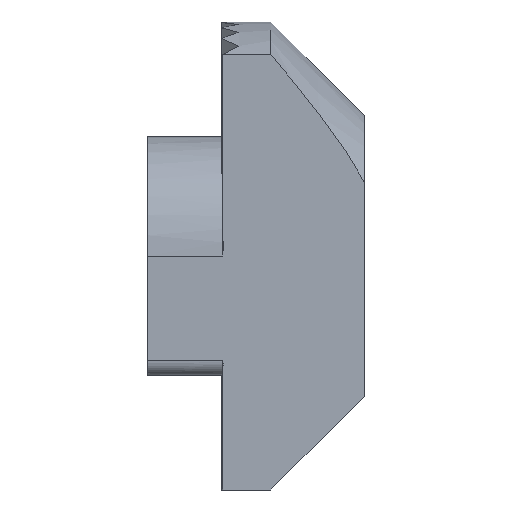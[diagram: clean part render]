
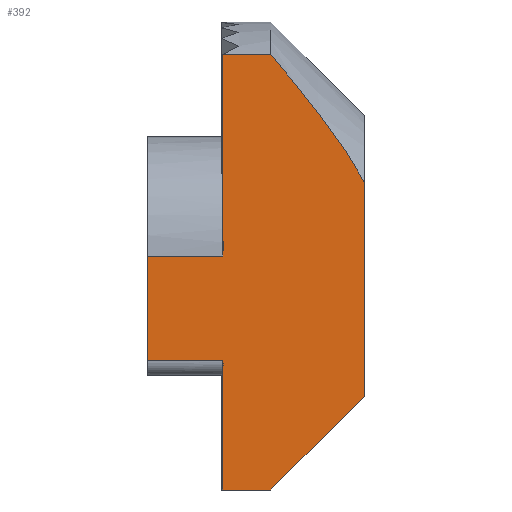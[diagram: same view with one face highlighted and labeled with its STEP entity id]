
A CAD part, left-side view. The second image highlights one B-rep face of the part: STEP entity #392.
In plain terms, the highlighted planar face has unit normal (-1, 0, 0).
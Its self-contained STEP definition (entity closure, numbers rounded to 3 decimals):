
#57 = CARTESIAN_POINT ( 'NONE',  ( -4.85, 3.8, 8.169 ) ) ;
#85 = VECTOR ( 'NONE', #3738, 1000. ) ;
#228 = CARTESIAN_POINT ( 'NONE',  ( -4.85, 5.75, -4.25 ) ) ;
#259 = LINE ( 'NONE', #4274, #1652 ) ;
#313 = VERTEX_POINT ( 'NONE', #1424 ) ;
#317 = CARTESIAN_POINT ( 'NONE',  ( -4.85, 3.1, 7.355 ) ) ;
#392 = ADVANCED_FACE ( 'NONE', ( #3383 ), #604, .F. ) ;
#401 = LINE ( 'NONE', #2017, #2925 ) ;
#458 = CARTESIAN_POINT ( 'NONE',  ( -4.85, 3.8, -9.5 ) ) ;
#471 = ORIENTED_EDGE ( 'NONE', *, *, #4269, .F. ) ;
#548 = VERTEX_POINT ( 'NONE', #458 ) ;
#596 = CARTESIAN_POINT ( 'NONE',  ( -4.85, 5.75, 8.169 ) ) ;
#604 = PLANE ( 'NONE',  #1906 ) ;
#645 = LINE ( 'NONE', #2231, #1453 ) ;
#713 = CARTESIAN_POINT ( 'NONE',  ( -4.85, 0., 2.995 ) ) ;
#723 = CARTESIAN_POINT ( 'NONE',  ( -4.85, 5.75, -9.5 ) ) ;
#880 = EDGE_LOOP ( 'NONE', ( #4785, #4732, #2509, #4182, #471, #2130, #2821, #4760, #2371, #3579 ) ) ;
#944 = VERTEX_POINT ( 'NONE', #1871 ) ;
#1192 = EDGE_CURVE ( 'NONE', #944, #3733, #2895, .T. ) ;
#1210 = DIRECTION ( 'NONE',  ( 0., -0.707, 0.707 ) ) ;
#1282 = VECTOR ( 'NONE', #3377, 1000. ) ;
#1283 = VERTEX_POINT ( 'NONE', #3127 ) ;
#1339 = LINE ( 'NONE', #2928, #85 ) ;
#1424 = CARTESIAN_POINT ( 'NONE',  ( -4.85, 5.75, -9.5 ) ) ;
#1453 = VECTOR ( 'NONE', #3838, 1000. ) ;
#1488 = LINE ( 'NONE', #4669, #4427 ) ;
#1652 = VECTOR ( 'NONE', #4646, 1000. ) ;
#1861 = LINE ( 'NONE', #723, #1936 ) ;
#1871 = CARTESIAN_POINT ( 'NONE',  ( -4.85, 0., 2.995 ) ) ;
#1878 = CARTESIAN_POINT ( 'NONE',  ( -4.85, 2.416, 6.53 ) ) ;
#1906 = AXIS2_PLACEMENT_3D ( 'NONE', #2987, #4596, #2192 ) ;
#1936 = VECTOR ( 'NONE', #4242, 1000. ) ;
#1993 = DIRECTION ( 'NONE',  ( 0., 0., -1. ) ) ;
#2017 = CARTESIAN_POINT ( 'NONE',  ( -4.85, 8.8, 0. ) ) ;
#2130 = ORIENTED_EDGE ( 'NONE', *, *, #2876, .T. ) ;
#2192 = DIRECTION ( 'NONE',  ( 0., 0., -1. ) ) ;
#2197 = DIRECTION ( 'NONE',  ( 0., -1., 0. ) ) ;
#2206 = EDGE_CURVE ( 'NONE', #1283, #4734, #259, .T. ) ;
#2231 = CARTESIAN_POINT ( 'NONE',  ( -4.85, 5.75, -9.5 ) ) ;
#2235 = EDGE_CURVE ( 'NONE', #313, #548, #1488, .T. ) ;
#2272 = CARTESIAN_POINT ( 'NONE',  ( -4.85, 0.534, 3.93 ) ) ;
#2298 = CARTESIAN_POINT ( 'NONE',  ( -4.85, 3.8, 8.169 ) ) ;
#2371 = ORIENTED_EDGE ( 'NONE', *, *, #3238, .F. ) ;
#2467 = VERTEX_POINT ( 'NONE', #4884 ) ;
#2509 = ORIENTED_EDGE ( 'NONE', *, *, #5056, .T. ) ;
#2608 = LINE ( 'NONE', #4310, #4777 ) ;
#2787 = EDGE_CURVE ( 'NONE', #3304, #313, #1861, .T. ) ;
#2821 = ORIENTED_EDGE ( 'NONE', *, *, #2206, .T. ) ;
#2876 = EDGE_CURVE ( 'NONE', #3199, #1283, #645, .T. ) ;
#2895 = B_SPLINE_CURVE_WITH_KNOTS ( 'NONE', 3,
 ( #713, #3906, #2272, #3879, #4680, #1878, #317, #2298 ),
 .UNSPECIFIED., .F., .F.,
 ( 4, 2, 2, 4 ),
 ( 0., 0.002, 0.003, 0.006 ),
 .UNSPECIFIED. ) ;
#2925 = VECTOR ( 'NONE', #1993, 1000. ) ;
#2928 = CARTESIAN_POINT ( 'NONE',  ( -4.85, 0., -9.5 ) ) ;
#2949 = LINE ( 'NONE', #3816, #1282 ) ;
#2987 = CARTESIAN_POINT ( 'NONE',  ( -4.85, 5.8, -9.5 ) ) ;
#3127 = CARTESIAN_POINT ( 'NONE',  ( -4.85, 5.75, 0. ) ) ;
#3144 = EDGE_CURVE ( 'NONE', #548, #3958, #3194, .T. ) ;
#3194 = LINE ( 'NONE', #4812, #4385 ) ;
#3199 = VERTEX_POINT ( 'NONE', #596 ) ;
#3238 = EDGE_CURVE ( 'NONE', #3304, #2467, #2949, .T. ) ;
#3304 = VERTEX_POINT ( 'NONE', #228 ) ;
#3377 = DIRECTION ( 'NONE',  ( 0., 1., 0. ) ) ;
#3383 = FACE_OUTER_BOUND ( 'NONE', #880, .T. ) ;
#3579 = ORIENTED_EDGE ( 'NONE', *, *, #2787, .T. ) ;
#3733 = VERTEX_POINT ( 'NONE', #57 ) ;
#3738 = DIRECTION ( 'NONE',  ( 0., 0., 1. ) ) ;
#3743 = EDGE_CURVE ( 'NONE', #4734, #2467, #401, .T. ) ;
#3816 = CARTESIAN_POINT ( 'NONE',  ( -4.85, 4.8, -4.25 ) ) ;
#3838 = DIRECTION ( 'NONE',  ( 0., 0., -1. ) ) ;
#3879 = CARTESIAN_POINT ( 'NONE',  ( -4.85, 1.13, 4.82 ) ) ;
#3906 = CARTESIAN_POINT ( 'NONE',  ( -4.85, 0.252, 3.474 ) ) ;
#3958 = VERTEX_POINT ( 'NONE', #4517 ) ;
#4182 = ORIENTED_EDGE ( 'NONE', *, *, #1192, .T. ) ;
#4242 = DIRECTION ( 'NONE',  ( 0., 0., -1. ) ) ;
#4269 = EDGE_CURVE ( 'NONE', #3199, #3733, #2608, .T. ) ;
#4274 = CARTESIAN_POINT ( 'NONE',  ( -4.85, 4.8, 0. ) ) ;
#4310 = CARTESIAN_POINT ( 'NONE',  ( -4.85, 5.8, 8.169 ) ) ;
#4385 = VECTOR ( 'NONE', #1210, 1000. ) ;
#4427 = VECTOR ( 'NONE', #4729, 1000. ) ;
#4517 = CARTESIAN_POINT ( 'NONE',  ( -4.85, 0., -5.7 ) ) ;
#4596 = DIRECTION ( 'NONE',  ( 1., 0., 0. ) ) ;
#4646 = DIRECTION ( 'NONE',  ( 0., 1., 0. ) ) ;
#4669 = CARTESIAN_POINT ( 'NONE',  ( -4.85, 5.8, -9.5 ) ) ;
#4680 = CARTESIAN_POINT ( 'NONE',  ( -4.85, 1.444, 5.253 ) ) ;
#4729 = DIRECTION ( 'NONE',  ( 0., -1., 0. ) ) ;
#4732 = ORIENTED_EDGE ( 'NONE', *, *, #3144, .T. ) ;
#4734 = VERTEX_POINT ( 'NONE', #5032 ) ;
#4760 = ORIENTED_EDGE ( 'NONE', *, *, #3743, .T. ) ;
#4777 = VECTOR ( 'NONE', #2197, 1000. ) ;
#4785 = ORIENTED_EDGE ( 'NONE', *, *, #2235, .T. ) ;
#4812 = CARTESIAN_POINT ( 'NONE',  ( -4.85, 3.8, -9.5 ) ) ;
#4884 = CARTESIAN_POINT ( 'NONE',  ( -4.85, 8.8, -4.25 ) ) ;
#5032 = CARTESIAN_POINT ( 'NONE',  ( -4.85, 8.8, 0. ) ) ;
#5056 = EDGE_CURVE ( 'NONE', #3958, #944, #1339, .T. ) ;
